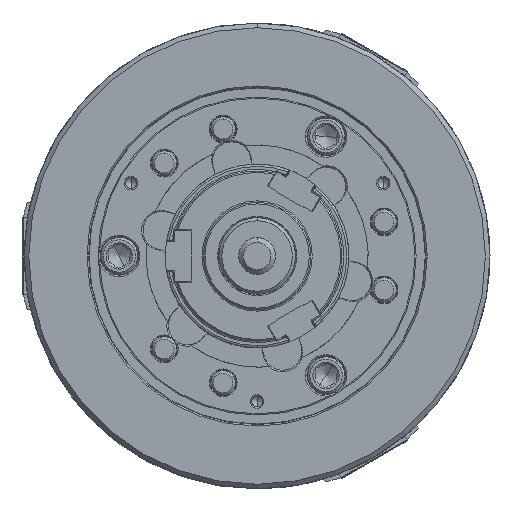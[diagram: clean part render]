
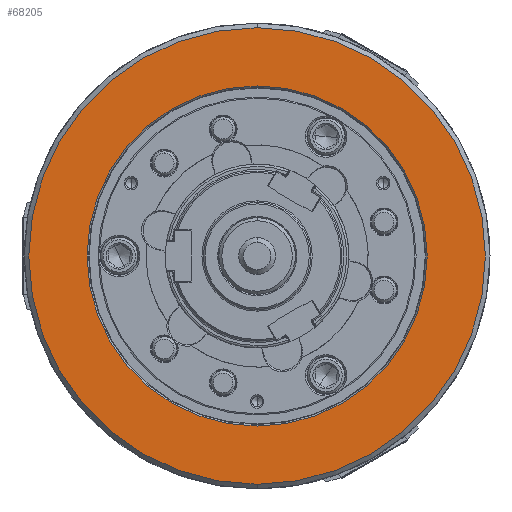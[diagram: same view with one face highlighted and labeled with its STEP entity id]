
A CAD part, left-side view. The second image highlights one B-rep face of the part: STEP entity #68205.
In plain terms, the highlighted planar face has unit normal (-1, 0, 0).
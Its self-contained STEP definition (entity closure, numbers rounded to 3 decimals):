
#1952 = DIRECTION ( 'NONE',  ( 0., 0., -1. ) ) ;
#2014 = AXIS2_PLACEMENT_3D ( 'NONE', #43275, #31487, #69502 ) ;
#5062 = CIRCLE ( 'NONE', #120613, 149. ) ;
#6948 = DIRECTION ( 'NONE',  ( 0., 0., -1. ) ) ;
#15291 = CARTESIAN_POINT ( 'NONE',  ( -106., 0., -149. ) ) ;
#15508 = ORIENTED_EDGE ( 'NONE', *, *, #121998, .F. ) ;
#15776 = EDGE_CURVE ( 'NONE', #108466, #26910, #86738, .T. ) ;
#21150 = VERTEX_POINT ( 'NONE', #15291 ) ;
#21751 = DIRECTION ( 'NONE',  ( 0., 0., -1. ) ) ;
#24195 = CIRCLE ( 'NONE', #26155, 149. ) ;
#26155 = AXIS2_PLACEMENT_3D ( 'NONE', #119646, #107187, #21751 ) ;
#26512 = CARTESIAN_POINT ( 'NONE',  ( -106., -111., 0. ) ) ;
#26910 = VERTEX_POINT ( 'NONE', #75058 ) ;
#27708 = CARTESIAN_POINT ( 'NONE',  ( -106., 0., 0. ) ) ;
#28933 = CARTESIAN_POINT ( 'NONE',  ( -106., 0., 149. ) ) ;
#31487 = DIRECTION ( 'NONE',  ( 1., 0., 0. ) ) ;
#32375 = EDGE_CURVE ( 'NONE', #26910, #108466, #47664, .T. ) ;
#42325 = VERTEX_POINT ( 'NONE', #28933 ) ;
#43275 = CARTESIAN_POINT ( 'NONE',  ( -106., 0., 0. ) ) ;
#45432 = CARTESIAN_POINT ( 'NONE',  ( -106., 0., 111. ) ) ;
#45630 = EDGE_LOOP ( 'NONE', ( #106558, #15508 ) ) ;
#46415 = FACE_OUTER_BOUND ( 'NONE', #45630, .T. ) ;
#47664 = CIRCLE ( 'NONE', #2014, 111. ) ;
#50611 = ORIENTED_EDGE ( 'NONE', *, *, #15776, .T. ) ;
#63718 = EDGE_LOOP ( 'NONE', ( #50611, #78841 ) ) ;
#65723 = DIRECTION ( 'NONE',  ( 1., 0., 0. ) ) ;
#68205 = ADVANCED_FACE ( 'NONE', ( #46415, #92601 ), #103792, .F. ) ;
#68849 = AXIS2_PLACEMENT_3D ( 'NONE', #27708, #65723, #75071 ) ;
#69502 = DIRECTION ( 'NONE',  ( 0., 0., -1. ) ) ;
#75058 = CARTESIAN_POINT ( 'NONE',  ( -106., 0., -111. ) ) ;
#75071 = DIRECTION ( 'NONE',  ( 0., 0., -1. ) ) ;
#78841 = ORIENTED_EDGE ( 'NONE', *, *, #32375, .T. ) ;
#86738 = CIRCLE ( 'NONE', #68849, 111. ) ;
#87372 = DIRECTION ( 'NONE',  ( 1., 0., 0. ) ) ;
#92601 = FACE_BOUND ( 'NONE', #63718, .T. ) ;
#93203 = DIRECTION ( 'NONE',  ( 1., 0., 0. ) ) ;
#96739 = CARTESIAN_POINT ( 'NONE',  ( -106., 0., 0. ) ) ;
#103622 = AXIS2_PLACEMENT_3D ( 'NONE', #26512, #93203, #6948 ) ;
#103792 = PLANE ( 'NONE',  #103622 ) ;
#106558 = ORIENTED_EDGE ( 'NONE', *, *, #113472, .F. ) ;
#107187 = DIRECTION ( 'NONE',  ( 1., 0., 0. ) ) ;
#108466 = VERTEX_POINT ( 'NONE', #45432 ) ;
#113472 = EDGE_CURVE ( 'NONE', #21150, #42325, #5062, .T. ) ;
#119646 = CARTESIAN_POINT ( 'NONE',  ( -106., 0., 0. ) ) ;
#120613 = AXIS2_PLACEMENT_3D ( 'NONE', #96739, #87372, #1952 ) ;
#121998 = EDGE_CURVE ( 'NONE', #42325, #21150, #24195, .T. ) ;
